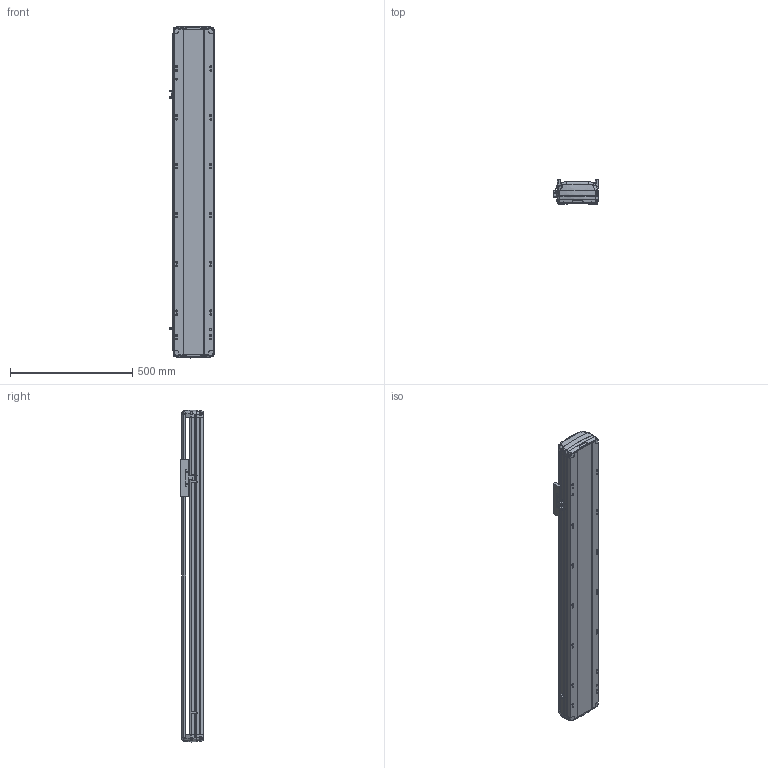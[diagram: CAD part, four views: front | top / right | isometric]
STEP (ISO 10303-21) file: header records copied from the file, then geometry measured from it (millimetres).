
FILE_DESCRIPTION (( 'STEP AP214' ), '1' );
FILE_NAME ('RTH17-XX-950-B-M40-C4.STEP', '2025-10-24T08:38:31', ( '' ), ( '' ), 'SwSTEP 2.0', 'SolidWorks 2018', '' );
FILE_SCHEMA (( 'AUTOMOTIVE_DESIGN' ));
Length unit declared in the file: millimetre
Products named in the file (7): N_RTH17-E-004丝杆螺母连接座^RTH17-XX-XX-B-M40-C4（方程式）; N_RTH17-M-007上盖^RTH17-XX-XX-B-M40-C4（方程式）; RTH17-XX-950-B-M40-C4; N_RTH-L-012 感应片(外置)^RTH17-XX-XX-B-M40-C4（方程式）; N_RTH17-M-011底座^RTH17-XX-XX-B-M40-C4（方程式）; N_OMRON EE-SX672 換覜ん^RTH17-XX-XX-B-M40-C4ㄗ源最宒ㄘ; N_RTH17-GY-001P^RTH17-XX-XX-B-M40-C4（方程式）
Assembly tree (9 placements, depth 2):
  RTH17-XX-950-B-M40-C4
    N_RTH17-M-011底座^RTH17-XX-XX-B-M40-C4（方程式）
    N_RTH17-M-007上盖^RTH17-XX-XX-B-M40-C4（方程式）
    N_OMRON EE-SX672 換覜ん^RTH17-XX-XX-B-M40-C4ㄗ源最宒ㄘ  x3
    N_RTH-L-012 感应片(外置)^RTH17-XX-XX-B-M40-C4（方程式）
    N_RTH17-E-004丝杆螺母连接座^RTH17-XX-XX-B-M40-C4（方程式）
    N_RTH17-GY-001P^RTH17-XX-XX-B-M40-C4（方程式）  x2
Bounding box: 183.5 x 97 x 1359.88 mm (x, y, z)
Volume: 9912074.8 mm3; surface area: 1360750.6 mm2
Topology: 7 solids, 11 shells, 1752 faces, 4934 edges, 3206 vertices
Faces by surface type: plane 813, cylinder 473, bspline 420, cone 28, torus 18
Entity records: 41814 total; most frequent: CARTESIAN_POINT 17297, ORIENTED_EDGE 5372, DIRECTION 4246, EDGE_CURVE 2690, VERTEX_POINT 1760, LINE 1454, VECTOR 1454, AXIS2_PLACEMENT_3D 1396
